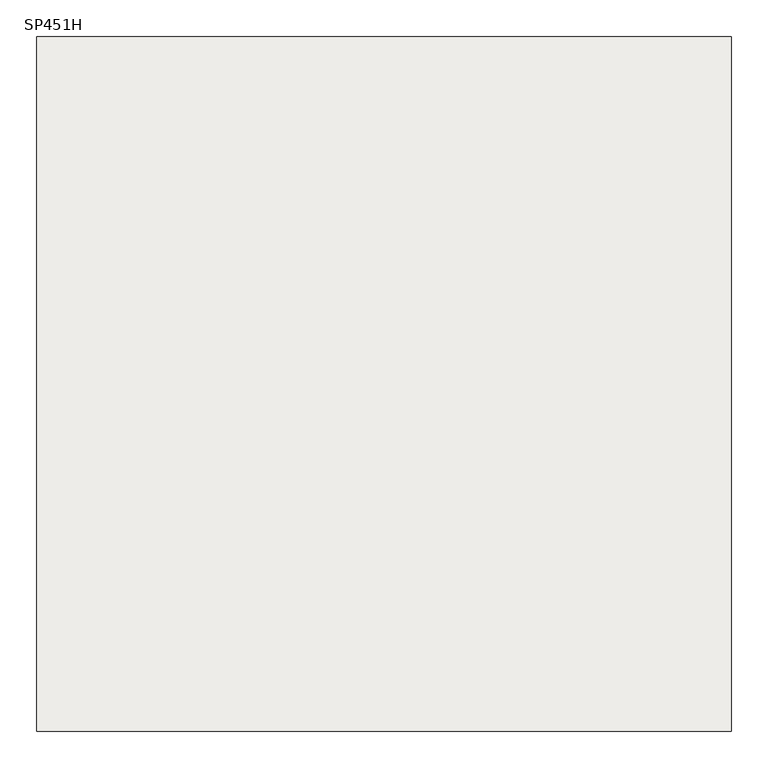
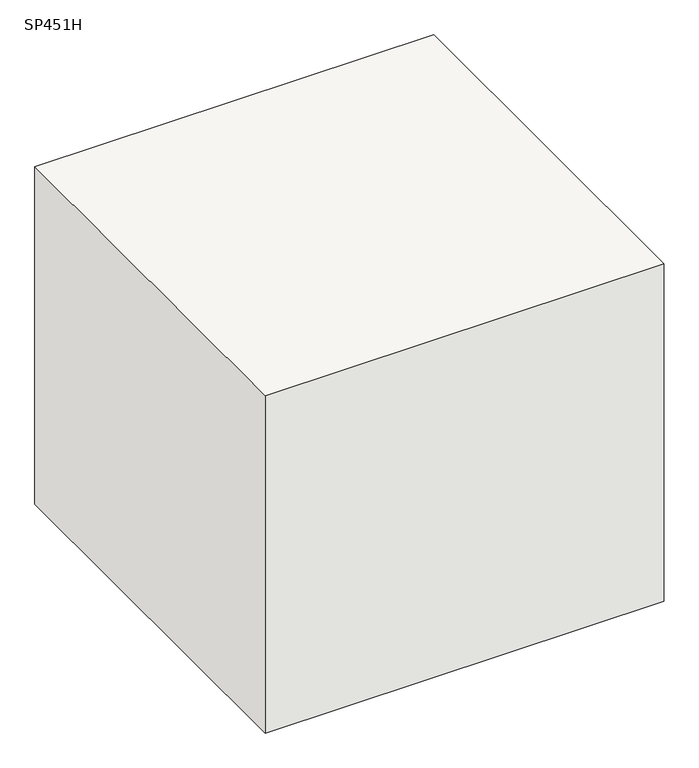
"""IFC4 building model written with IfcOpenShell, lengths in millimetres: slab geometry, 柱形_SP : SP451H."""

import ifcopenshell
import ifcopenshell.guid

model = None  # the IFC model being written
_history = None  # IfcOwnerHistory: only IFC2X3 demands one
_inside = {}  # id of a spatial element -> (the spatial element, [elements in it])
_under = {}  # id of a project, library or spatial element -> (it, [spatial elements below it])
_declared = {}  # id of a project -> (the project, [libraries it declares])
_typed = {}  # id of a type object -> (the type object, [elements of that type])
_made_of = {}  # id of a material, layer set ... -> (it, [elements and type objects made of it])


def new_model(schema):
    """Start an empty IFC model of exactly this schema.

    Asked for "IFC4X3", IfcOpenShell would pick the latest addendum, in which some entities
    have other attributes; the version numbers below select the first issue.
    IFC2X3 requires an IfcOwnerHistory on every rooted entity: one is made here for all.
    """
    global model, _history
    if schema == "IFC4X3":
        model = ifcopenshell.file(schema_version=(4, 3, 0, 0))
    else:
        model = ifcopenshell.file(schema=schema)
    _inside.clear()
    _under.clear()
    _declared.clear()
    _typed.clear()
    _made_of.clear()
    _history = None
    if model.schema == "IFC2X3":
        org = make("IfcOrganization", Name="unknown")
        user = make(
            "IfcPersonAndOrganization",
            ThePerson=make("IfcPerson", FamilyName="unknown"),
            TheOrganization=org,
        )
        app = make(
            "IfcApplication",
            ApplicationDeveloper=org,
            Version="unknown",
            ApplicationFullName="unknown",
            ApplicationIdentifier="unknown",
        )
        _history = make(
            "IfcOwnerHistory",
            OwningUser=user,
            OwningApplication=app,
            ChangeAction="ADDED",
            CreationDate=0,
        )
    return model


def make(cls, **values):
    """One entity of the class cls with the attributes given. An attribute that is None is left unset."""
    return model.create_entity(
        cls, **{name: value for name, value in values.items() if value is not None}
    )


def rooted(cls, **values):
    """An entity with a GlobalId (a new one), such as an element, a storey or a relation."""
    return make(cls, GlobalId=ifcopenshell.guid.new(), OwnerHistory=_history, **values)


def si_unit(unit_type, name, prefix=None):
    """IfcSIUnit, for example si_unit("LENGTHUNIT", "METRE", prefix="MILLI")."""
    return make("IfcSIUnit", UnitType=unit_type, Prefix=prefix, Name=name)


def assignment(units):
    """IfcUnitAssignment: the units of a project."""
    return None if units is None else make("IfcUnitAssignment", Units=units)


def point(xyz):
    """IfcCartesianPoint."""
    return None if xyz is None else make("IfcCartesianPoint", Coordinates=xyz)


def direction(xyz):
    """IfcDirection."""
    return None if xyz is None else make("IfcDirection", DirectionRatios=xyz)


def frame(location, z_axis=None, x_axis=None):
    """IfcAxis2Placement3D, a coordinate frame: its origin and axes. An axis left out is left unset."""
    return make(
        "IfcAxis2Placement3D",
        Location=point(location),
        Axis=direction(z_axis),
        RefDirection=direction(x_axis),
    )


def origin():
    """The frame at (0, 0, 0) with its axes left unset."""
    return frame((0.0, 0.0, 0.0))


def place(relative_to, where):
    """IfcLocalPlacement: puts the frame where relative to a parent placement (None: the world)."""
    return make(
        "IfcLocalPlacement", PlacementRelTo=relative_to, RelativePlacement=where
    )


def context(
    kind, dimensions, precision=None, world=None, true_north=None, identifier=None
):
    """IfcGeometricRepresentationContext, for example the 3D "Model" context."""
    return make(
        "IfcGeometricRepresentationContext",
        ContextIdentifier=identifier,
        ContextType=kind,
        CoordinateSpaceDimension=dimensions,
        Precision=precision,
        WorldCoordinateSystem=world,
        TrueNorth=true_north,
    )


def project(units=None, contexts=None):
    """IfcProject with its units and contexts."""
    return rooted(
        "IfcProject",
        Name="project",
        RepresentationContexts=contexts,
        UnitsInContext=assignment(units),
    )


def spatial(cls, under=None, at=None, **own):
    """A site, building, storey or space (cls), placed at a placement, below another one or the project."""
    s = rooted(cls, ObjectPlacement=at, **own)
    if under is not None:
        _under.setdefault(under.id(), (under, []))[1].append(s)
    return s


def polyline(points):
    """IfcPolyline through the points."""
    return make("IfcPolyline", Points=[point(p) for p in points])


def outline(outer, holes=None, kind="AREA"):
    """IfcArbitraryClosedProfileDef: a profile drawn as a closed curve; with holes, ...WithVoids."""
    if holes is None:
        return make("IfcArbitraryClosedProfileDef", ProfileType=kind, OuterCurve=outer)
    return make(
        "IfcArbitraryProfileDefWithVoids",
        ProfileType=kind,
        OuterCurve=outer,
        InnerCurves=holes,
    )


def extrude(swept, where, along, depth):
    """IfcExtrudedAreaSolid: the profile swept, set in the frame where, extruded along a direction by depth."""
    return make(
        "IfcExtrudedAreaSolid",
        SweptArea=swept,
        Position=where,
        ExtrudedDirection=direction(along),
        Depth=depth,
    )


def shape(context_of_items, identifier, shape_type, items):
    """IfcShapeRepresentation: the items that make up one representation, for example the "Body"."""
    return make(
        "IfcShapeRepresentation",
        ContextOfItems=context_of_items,
        RepresentationIdentifier=identifier,
        RepresentationType=shape_type,
        Items=items,
    )


def source(mapping_origin, context_of_items, identifier, shape_type, items):
    """IfcRepresentationMap: a shape defined once, which mapped items show again and again."""
    return make(
        "IfcRepresentationMap",
        MappingOrigin=mapping_origin,
        MappedRepresentation=shape(context_of_items, identifier, shape_type, items),
    )


def transform(
    local_origin,
    x_axis=None,
    y_axis=None,
    z_axis=None,
    scale=None,
    scale2=None,
    scale3=None,
    uniform=True,
):
    """IfcCartesianTransformationOperator3D, or its non-uniform kind. x_axis, y_axis, z_axis: its Axis1, 2, 3."""
    if uniform:
        return make(
            "IfcCartesianTransformationOperator3D",
            Axis1=direction(x_axis),
            Axis2=direction(y_axis),
            LocalOrigin=point(local_origin),
            Scale=scale,
            Axis3=direction(z_axis),
        )
    return make(
        "IfcCartesianTransformationOperator3DnonUniform",
        Axis1=direction(x_axis),
        Axis2=direction(y_axis),
        LocalOrigin=point(local_origin),
        Scale=scale,
        Axis3=direction(z_axis),
        Scale2=scale2,
        Scale3=scale3,
    )


def mapped(mapping_source, mapping_target):
    """IfcMappedItem: shows the shape of a source again, moved by a transform."""
    return make(
        "IfcMappedItem", MappingSource=mapping_source, MappingTarget=mapping_target
    )


def made_of(thing, what):
    """Note that an element or type object is made of a material, layer set ...; save() writes the relation."""
    if what is not None:
        _made_of.setdefault(what.id(), (what, []))[1].append(thing)
    return thing


def element(
    cls,
    number,
    at=None,
    inside=None,
    cuts=None,
    type_object=None,
    material=None,
    context=None,
    identifier="Body",
    shape_type=None,
    held_by="IfcProductDefinitionShape",
    body=None,
    shapes=None,
    **own,
):
    """One element of the class cls, such as IfcWall. Its Tag is "e" and its number.

    at: its placement. inside: the storey or other place that contains it. cuts: it is an
    opening in that element (IfcRelVoidsElement). A single representation is given by context,
    identifier, shape_type and body (its items); several are given by shapes. held_by: the class
    of the entity that holds the representations. save() writes the other relations.
    """
    e = rooted(cls, Tag="e%d" % number, ObjectPlacement=at, **own)
    if body is not None:
        shapes = [shape(context, identifier, shape_type, body)]
    if shapes is not None:
        e.Representation = make(held_by, Representations=shapes)
    if inside is not None:
        _inside.setdefault(inside.id(), (inside, []))[1].append(e)
    if cuts is not None:
        rooted(
            "IfcRelVoidsElement", RelatingBuildingElement=cuts, RelatedOpeningElement=e
        )
    if type_object is not None:
        _typed.setdefault(type_object.id(), (type_object, []))[1].append(e)
    return made_of(e, material)


def aggregate(whole, parts):
    """IfcRelAggregates: a whole, such as a stair, and the parts it consists of."""
    return rooted("IfcRelAggregates", RelatingObject=whole, RelatedObjects=parts)


def save(model, path):
    """Write the relations noted so far, then the file.

    IfcRelAggregates (storeys below a building ...), IfcRelContainedInSpatialStructure (elements
    in a storey), IfcRelDefinesByType, IfcRelAssociatesMaterial and IfcRelDeclares: one each for
    every whole, place, type object, material and project.
    """
    for whole, parts in _under.values():
        aggregate(whole, parts)
    for where, things in _inside.values():
        rooted(
            "IfcRelContainedInSpatialStructure",
            RelatedElements=things,
            RelatingStructure=where,
        )
    for kind, things in _typed.values():
        rooted("IfcRelDefinesByType", RelatedObjects=things, RelatingType=kind)
    for what, things in _made_of.values():
        rooted("IfcRelAssociatesMaterial", RelatedObjects=things, RelatingMaterial=what)
    for by, libraries in _declared.values():
        rooted("IfcRelDeclares", RelatingContext=by, RelatedDefinitions=libraries)
    model.write(path)


def sp451h_7c441174(model_context):
    return source(origin(), model_context, "Body", "SweptSolid", [
        extrude(outline(polyline([(475.0, 475.0), (475.0, -475.0), (-475.0, -475.0), (-475.0, 475.0), (475.0, 475.0)])), frame((0.0, 0.0, -850.0), z_axis=(0.0, 0.0, 1.0), x_axis=(1.0, 0.0, 0.0)), (0.0, 0.0, 1.0), 850.0),
    ])


if __name__ == "__main__":
    model = new_model("IFC4")
    model_context = context("Model", 3, world=origin())
    ifc_project = project(units=[si_unit("LENGTHUNIT", "METRE", prefix="MILLI")], contexts=[model_context])
    site = spatial("IfcSite", under=ifc_project)
    building = spatial("IfcBuilding", under=site)
    placement = place(None, origin())
    sp451h_shape = sp451h_7c441174(model_context)
    element("IfcSlab", 1, ObjectType="柱形_SP : SP451H", at=placement, inside=building, context=model_context, shape_type="MappedRepresentation", body=[
        mapped(sp451h_shape, transform((0.0, 0.0, 0.0), x_axis=(1.0, 0.0, 0.0), y_axis=(0.0, 1.0, 0.0), z_axis=(0.0, 0.0, 1.0))),
    ])
    save(model, "model.ifc")
